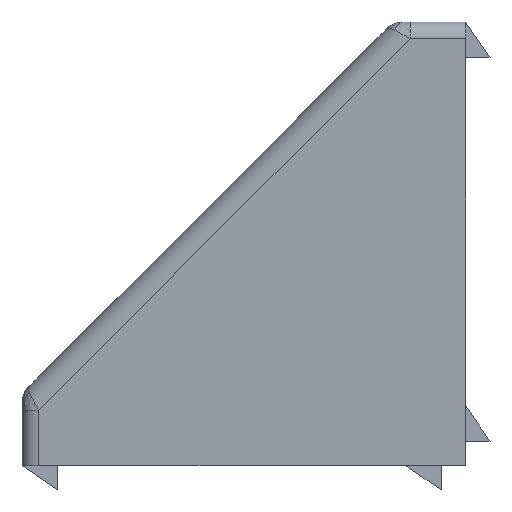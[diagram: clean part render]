
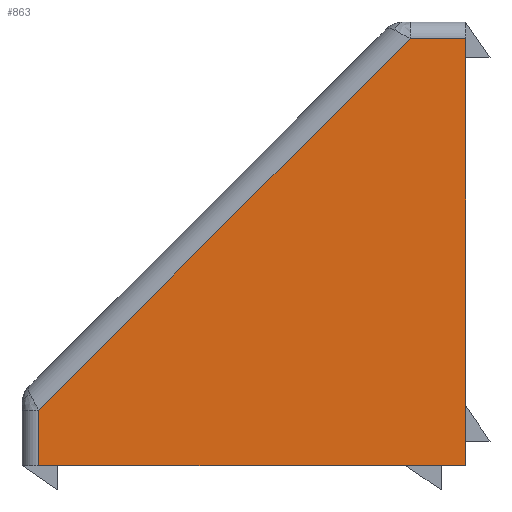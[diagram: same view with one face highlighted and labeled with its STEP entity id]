
A CAD part, left-side view. The second image highlights one B-rep face of the part: STEP entity #863.
In plain terms, the highlighted planar face has unit normal (-1, 0, 0).
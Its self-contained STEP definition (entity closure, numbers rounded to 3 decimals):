
#53 = CARTESIAN_POINT ( 'NONE',  ( -17.5, 0., 0. ) ) ;
#77 = DIRECTION ( 'NONE',  ( 0., -1., 0. ) ) ;
#78 = CARTESIAN_POINT ( 'NONE',  ( -17.5, 0., 0. ) ) ;
#255 = DIRECTION ( 'NONE',  ( 0., 0., 1. ) ) ;
#318 = VERTEX_POINT ( 'NONE', #2408 ) ;
#337 = VERTEX_POINT ( 'NONE', #2407 ) ;
#487 = VERTEX_POINT ( 'NONE', #2258 ) ;
#617 = VERTEX_POINT ( 'NONE', #2162 ) ;
#731 = VERTEX_POINT ( 'NONE', #2310 ) ;
#863 = ADVANCED_FACE ( 'NONE', ( #1356 ), #2643, .F. ) ;
#1005 = EDGE_CURVE ( 'NONE', #337, #731, #1228, .T. ) ;
#1006 = EDGE_CURVE ( 'NONE', #487, #337, #1240, .T. ) ;
#1007 = EDGE_CURVE ( 'NONE', #617, #487, #1224, .T. ) ;
#1078 = VECTOR ( 'NONE', #77, 1000. ) ;
#1080 = LINE ( 'NONE', #78, #1078 ) ;
#1145 = VECTOR ( 'NONE', #255, 1000. ) ;
#1149 = LINE ( 'NONE', #53, #1145 ) ;
#1221 = VECTOR ( 'NONE', #3316, 1000. ) ;
#1223 = VECTOR ( 'NONE', #3322, 1000. ) ;
#1224 = LINE ( 'NONE', #3318, #1221 ) ;
#1225 = VECTOR ( 'NONE', #3325, 1000. ) ;
#1228 = LINE ( 'NONE', #3327, #1225 ) ;
#1240 = LINE ( 'NONE', #3332, #1223 ) ;
#1356 = FACE_OUTER_BOUND ( 'NONE', #1790, .T. ) ;
#1790 = EDGE_LOOP ( 'NONE', ( #1928, #1868, #1865, #1859, #1872 ) ) ;
#1859 = ORIENTED_EDGE ( 'NONE', *, *, #3560, .T. ) ;
#1865 = ORIENTED_EDGE ( 'NONE', *, *, #1005, .T. ) ;
#1868 = ORIENTED_EDGE ( 'NONE', *, *, #1006, .T. ) ;
#1872 = ORIENTED_EDGE ( 'NONE', *, *, #3507, .T. ) ;
#1928 = ORIENTED_EDGE ( 'NONE', *, *, #1007, .T. ) ;
#2052 = AXIS2_PLACEMENT_3D ( 'NONE', #2653, #2639, #2638 ) ;
#2162 = CARTESIAN_POINT ( 'NONE',  ( -17.5, 0., 38.5 ) ) ;
#2258 = CARTESIAN_POINT ( 'NONE',  ( -17.5, 4.995, 38.5 ) ) ;
#2310 = CARTESIAN_POINT ( 'NONE',  ( -17.5, 38.5, 0. ) ) ;
#2407 = CARTESIAN_POINT ( 'NONE',  ( -17.5, 38.5, 4.995 ) ) ;
#2408 = CARTESIAN_POINT ( 'NONE',  ( -17.5, 0., 0. ) ) ;
#2638 = DIRECTION ( 'NONE',  ( 0., 0., -1. ) ) ;
#2639 = DIRECTION ( 'NONE',  ( 1., 0., 0. ) ) ;
#2643 = PLANE ( 'NONE',  #2052 ) ;
#2653 = CARTESIAN_POINT ( 'NONE',  ( -17.5, 0., 0. ) ) ;
#3316 = DIRECTION ( 'NONE',  ( 0., 1., 0. ) ) ;
#3318 = CARTESIAN_POINT ( 'NONE',  ( -17.5, 6.5, 38.5 ) ) ;
#3322 = DIRECTION ( 'NONE',  ( 0., 0.707, -0.707 ) ) ;
#3325 = DIRECTION ( 'NONE',  ( 0., 0., -1. ) ) ;
#3327 = CARTESIAN_POINT ( 'NONE',  ( -17.5, 38.5, 0. ) ) ;
#3332 = CARTESIAN_POINT ( 'NONE',  ( -17.5, 21.747, 21.747 ) ) ;
#3507 = EDGE_CURVE ( 'NONE', #318, #617, #1149, .T. ) ;
#3560 = EDGE_CURVE ( 'NONE', #731, #318, #1080, .T. ) ;
